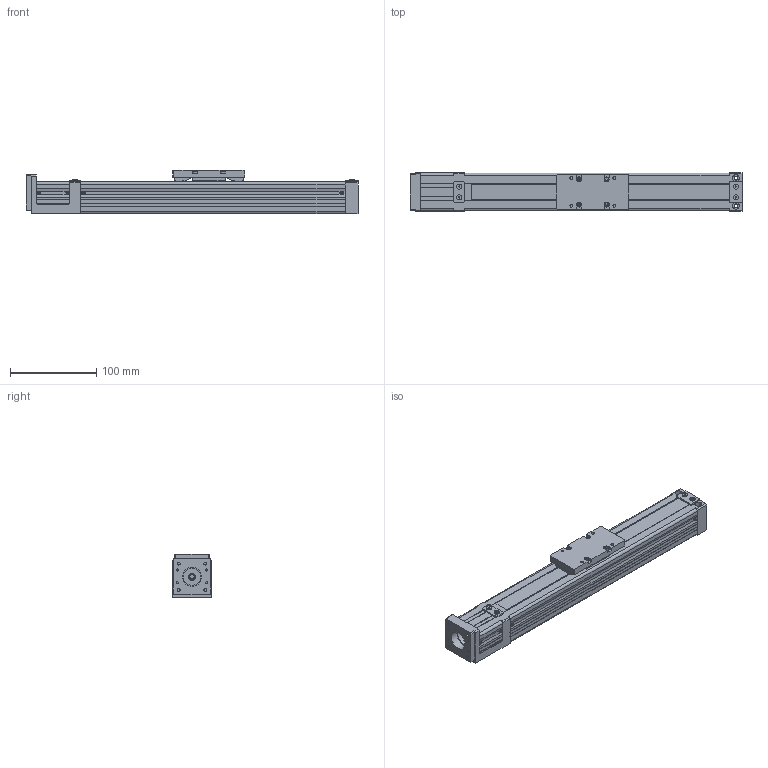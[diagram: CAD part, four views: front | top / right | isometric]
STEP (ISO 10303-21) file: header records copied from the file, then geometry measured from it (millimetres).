
FILE_DESCRIPTION((''),'2;1');
FILE_NAME('D:\製品 (図面)\カタログ用3D\SU部品\SU45×50\ダウンロード用\SU45×50-MB42\SU45×50-200-MB42.stp','2011-06-17T14:43:55',('Tsuchiya'),(''),'Autodesk Inventor 10','Autodesk Inventor 10','');
FILE_SCHEMA(('AUTOMOTIVE_DESIGN { 1 0 10303 214 1 1 1 1 }'));
Length unit declared in the file: millimetre
Products named in the file (3): SU45×50-200-MB42; SB45×50-200-MB42-1(1); SU45×50-T(1)
Assembly tree (2 placements, depth 2):
  SU45×50-200-MB42
    SB45×50-200-MB42-1(1)
    SU45×50-T(1)
Bounding box: 386 x 45 x 50 mm (x, y, z)
Volume: 269488.1 mm3; surface area: 158830.4 mm2
Topology: 2 solids, 2 shells, 673 faces, 1803 edges, 1188 vertices
Faces by surface type: plane 513, cylinder 79, bspline 50, torus 18, cone 13
Full cylindrical faces by diameter (mm): 2.459 x4, 3.242 x4, 3.4 x4, 4.5 x4, 5 x4, 6 x5, 7 x6, 8 x7, 10 x1, 20 x1, 22 x1, 30 x1
Entity records: 20761 total; most frequent: CARTESIAN_POINT 4540, ORIENTED_EDGE 3328, DIRECTION 3104, EDGE_CURVE 1664, VECTOR 1316, LINE 1316, VERTEX_POINT 1152, AXIS2_PLACEMENT_3D 894
